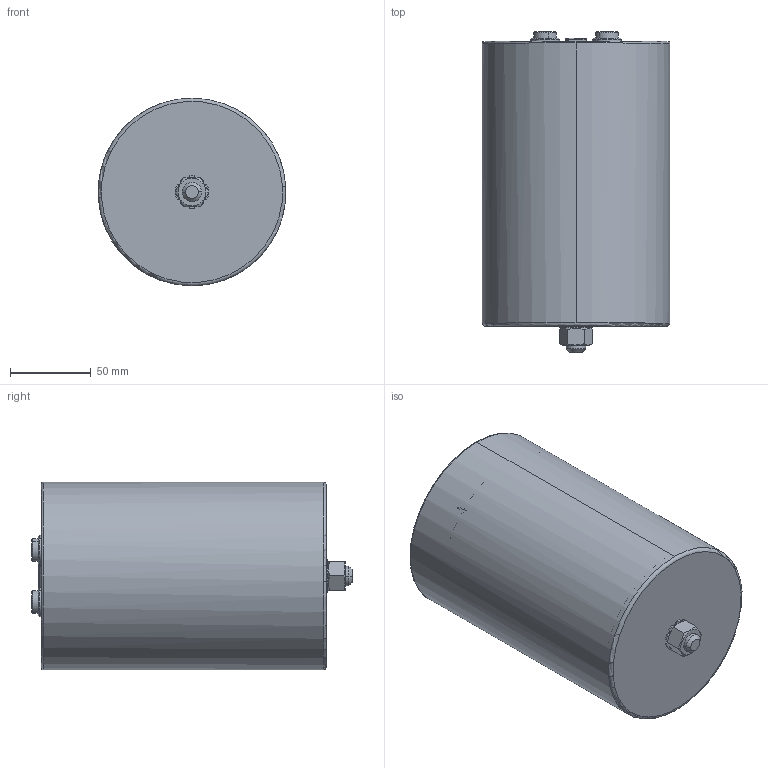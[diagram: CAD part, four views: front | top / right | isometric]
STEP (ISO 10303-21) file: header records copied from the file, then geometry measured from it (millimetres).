
FILE_DESCRIPTION (( 'STEP AP203' ), '1' );
FILE_NAME ('B25690Ax_116x176_182 .STEP', '2021-09-07T05:28:10', ( '' ), ( '' ), 'SwSTEP 2.0', 'SolidWorks 2017', '' );
FILE_SCHEMA (( 'CONFIG_CONTROL_DESIGN' ));
Length unit declared in the file: millimetre
Products named in the file (1): B25690Ax_116x176_182 
Bounding box: 116 x 198 x 116 mm (x, y, z)
Volume: 197518.8 mm3; surface area: 173162.6 mm2
Topology: 1 solids, 3 shells, 263 faces, 679 edges, 427 vertices
Faces by surface type: plane 135, cylinder 76, cone 40, torus 8, sphere 4
Entity records: 8289 total; most frequent: CARTESIAN_POINT 1908, DIRECTION 1354, ORIENTED_EDGE 1350, EDGE_CURVE 675, AXIS2_PLACEMENT_3D 533, VERTEX_POINT 427, VECTOR 288, LINE 288
